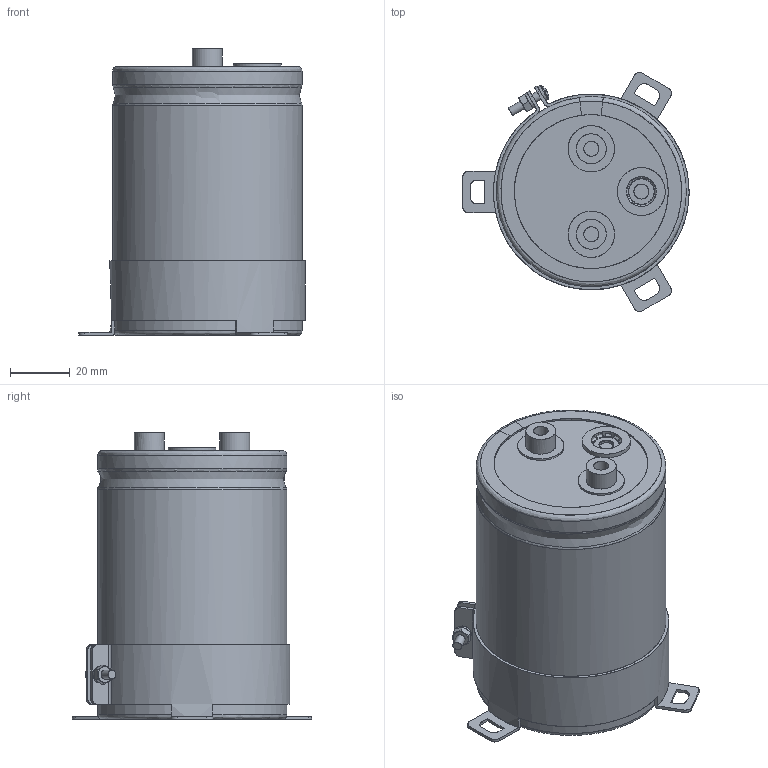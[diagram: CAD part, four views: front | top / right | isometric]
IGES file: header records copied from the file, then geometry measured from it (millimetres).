
Start section: JAMA-IS VERSION  1.0
Bounding box: 75.75 x 80.01 x 96 mm (x, y, z)
Surface area: 75046.2 mm2 (no closed solid volume)
Topology: 0 solids, 0 shells, 259 faces, 4436 edges, 4409 vertices
Faces by surface type: bspline 259
